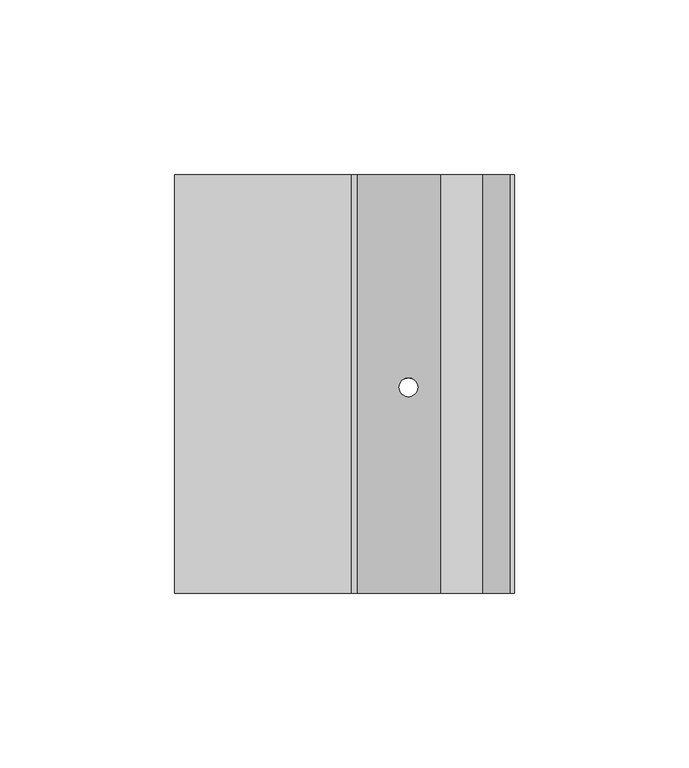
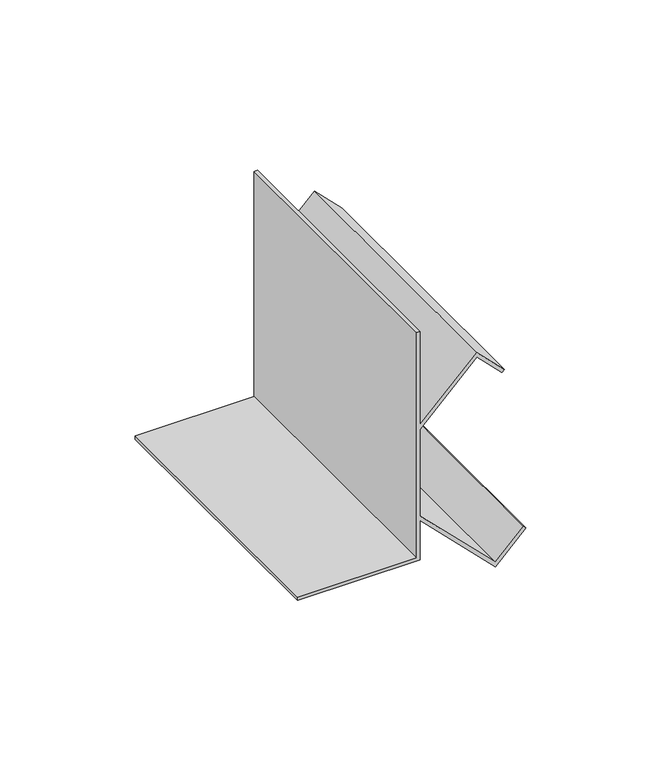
"""IFC4 building model written with IfcOpenShell, lengths in millimetres: proxy geometry, Mechanical Fittings & Accessories5 : Mechanical Fittings & Accessories."""

from ifc_helpers import new_model, si_unit, frame, origin, place, context, project, spatial, polyline, ellipse_curve, source, transform, mapped, element, save
from ifc_brep_helpers import plane_surface, revolved_surface, advanced_brep


def generic_models_6631cd60(model_context):
    return source(origin(), model_context, "Body", "AdvancedBrep", [
        advanced_brep(
        [(-10977.7433312, 7051.4963986, 4114.8), (-11028.5433312, 7051.4963986, 4114.8), (-11028.5433312, 7051.4963986, 4113.3117188), (-10976.25505, 7051.4963986, 4113.3117188), (-10976.25505, 7051.4963986, 4131.1383509), (-10944.145289, 7051.4963986, 4099.0285899), (-10931.1663177, 7051.4963986, 4112.0075612), (-10932.2186914, 7051.4963986, 4113.059935), (-10944.145289, 7051.4963986, 4101.1333374), (-10976.25505, 7051.4963986, 4133.2430984), (-10976.25505, 7051.4963986, 4172.2761118), (-10952.082789, 7051.4963986, 4196.4483729), (-10941.3468164, 7051.4963986, 4185.7124003), (-10940.2944427, 7051.4963986, 4186.7647741), (-10952.082789, 7051.4963986, 4198.5531204), (-10976.25505, 7051.4963986, 4174.3808594), (-10976.25505, 7051.4963986, 4216.4), (-10977.7433312, 7051.4963986, 4216.4), (-10977.7433312, 7171.4645457, 4114.8), (-10977.7433312, 7171.4645457, 4216.4), (-10976.25505, 7171.4645457, 4216.4), (-10976.25505, 7171.4645457, 4174.3808594), (-10952.082789, 7171.4645457, 4198.5531204), (-10940.2944427, 7171.4645457, 4186.7647741), (-10941.3468164, 7171.4645457, 4185.7124003), (-10952.082789, 7171.4645457, 4196.4483729), (-10976.25505, 7171.4645457, 4172.2761118), (-10976.25505, 7171.4645457, 4133.2430984), (-10944.145289, 7171.4645457, 4101.1333374), (-10932.2186914, 7171.4645457, 4113.059935), (-10931.1663177, 7171.4645457, 4112.0075612), (-10944.145289, 7171.4645457, 4099.0285899), (-10976.25505, 7171.4645457, 4131.1383509), (-10976.25505, 7171.4645457, 4113.3117188), (-11028.5433312, 7171.4645457, 4113.3117188), (-11028.5433312, 7171.4645457, 4114.8), (-10964.1411396, 7110.5191481, 4119.0244406), (-10958.8017728, 7110.5191481, 4113.6850737), (-10958.8017728, 7110.5191481, 4115.7898213), (-10964.1411396, 7110.5191481, 4121.1291881), (-10964.1411396, 7110.5191481, 4184.3900222), (-10958.8017728, 7110.5191481, 4189.729389), (-10958.8017728, 7110.5191481, 4191.8341365), (-10964.1411396, 7110.5191481, 4186.4947697)],
        [
            (0, 1),
            (1, 2),
            (2, 3),
            (3, 4),
            (4, 5),
            (5, 6),
            (6, 7),
            (7, 8),
            (8, 9),
            (9, 10),
            (10, 11),
            (11, 12),
            (12, 13),
            (13, 14),
            (14, 15),
            (15, 16),
            (16, 17),
            (17, 0),
            (18, 19),
            (19, 20),
            (20, 21),
            (21, 22),
            (22, 23),
            (23, 24),
            (24, 25),
            (25, 26),
            (26, 27),
            (27, 28),
            (28, 29),
            (29, 30),
            (30, 31),
            (31, 32),
            (32, 33),
            (33, 34),
            (34, 35),
            (35, 18),
            (0, 18),
            (35, 1),
            (34, 2),
            (33, 3),
            (32, 4),
            (31, 5),
            (36, 37, ellipse_curve(frame((-10961.4714562, 7110.5191481, 4116.3547571), z_axis=(0.7071067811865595, 0.0, 0.7071067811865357), x_axis=(-0.7071067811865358, 0.0, 0.7071067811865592)), 3.7755025, 2.6696834)),
            (37, 36, ellipse_curve(frame((-10961.4714562, 7110.5191481, 4116.3547571), z_axis=(0.7071067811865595, 0.0, 0.7071067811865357), x_axis=(-0.7071067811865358, 0.0, 0.7071067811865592)), 3.7755025, 2.6696834)),
            (30, 6),
            (29, 7),
            (28, 8),
            (27, 9),
            (38, 39, ellipse_curve(frame((-10961.4714562, 7110.5191481, 4118.4595047), z_axis=(-0.7071067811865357, 0.0, -0.7071067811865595), x_axis=(-0.7071067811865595, 0.0, 0.7071067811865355)), 3.7755025, 2.6696834)),
            (39, 38, ellipse_curve(frame((-10961.4714562, 7110.5191481, 4118.4595047), z_axis=(-0.7071067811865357, 0.0, -0.7071067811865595), x_axis=(-0.7071067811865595, 0.0, 0.7071067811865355)), 3.7755025, 2.6696834)),
            (26, 10),
            (25, 11),
            (40, 41, ellipse_curve(frame((-10961.4714562, 7110.5191481, 4187.0597056), z_axis=(-0.7071067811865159, 0.0, 0.7071067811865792), x_axis=(0.7071067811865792, 0.0, 0.7071067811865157)), 3.7755025, 2.6696834)),
            (41, 40, ellipse_curve(frame((-10961.4714562, 7110.5191481, 4187.0597056), z_axis=(-0.7071067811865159, 0.0, 0.7071067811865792), x_axis=(0.7071067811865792, 0.0, 0.7071067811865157)), 3.7755025, 2.6696834)),
            (24, 12),
            (23, 13),
            (22, 14),
            (21, 15),
            (42, 43, ellipse_curve(frame((-10961.4714562, 7110.5191481, 4189.1644531), z_axis=(0.7071067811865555, 0.0, -0.7071067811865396), x_axis=(0.7071067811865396, 0.0, 0.7071067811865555)), 3.7755025, 2.6696834)),
            (43, 42, ellipse_curve(frame((-10961.4714562, 7110.5191481, 4189.1644531), z_axis=(0.7071067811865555, 0.0, -0.7071067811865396), x_axis=(0.7071067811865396, 0.0, 0.7071067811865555)), 3.7755025, 2.6696834)),
            (20, 16),
            (19, 17),
            (36, 39),
            (38, 37),
            (40, 43),
            (42, 41),
        ],
        [
            plane_surface(frame((-11028.5433312, 7051.4963986, 4114.8), z_axis=(0.0, -1.0, 0.0), x_axis=(-1.0, 0.0, 0.0))),
            plane_surface(frame((-11028.5433312, 7171.4645457, 4114.8), z_axis=(0.0, 1.0, 0.0), x_axis=(1.0, 0.0, 0.0))),
            plane_surface(frame((-10977.7433312, 7051.4963986, 4114.8), z_axis=(0.0, 0.0, 1.0), x_axis=(0.0, 1.0, 0.0))),
            plane_surface(frame((-11028.5433312, 7051.4963986, 4114.8), z_axis=(-1.0, 0.0, 0.0), x_axis=(0.0, 1.0, 0.0))),
            plane_surface(frame((-11028.5433312, 7051.4963986, 4113.3117188), z_axis=(0.0, 0.0, -1.0), x_axis=(0.0, 1.0, 0.0))),
            plane_surface(frame((-10976.25505, 7051.4963986, 4113.3117188), z_axis=(1.0, 0.0, 0.0), x_axis=(0.0, 1.0, 0.0))),
            plane_surface(frame((-10976.25505, 7051.4963986, 4131.1383509), z_axis=(-0.7071067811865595, 0.0, -0.7071067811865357), x_axis=(0.0, 1.0, 0.0))),
            plane_surface(frame((-10944.145289, 7051.4963986, 4099.0285899), z_axis=(0.7071067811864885, 0.0, -0.7071067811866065), x_axis=(0.0, 1.0, 0.0))),
            plane_surface(frame((-10931.1663177, 7051.4963986, 4112.0075612), z_axis=(0.7071067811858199, 0.0, 0.7071067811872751), x_axis=(0.0, 1.0, 0.0))),
            plane_surface(frame((-10932.2186914, 7051.4963986, 4113.059935), z_axis=(-0.7071067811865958, 0.0, 0.7071067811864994), x_axis=(0.0, 1.0, 0.0))),
            plane_surface(frame((-10944.145289, 7051.4963986, 4101.1333374), z_axis=(0.7071067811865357, 0.0, 0.7071067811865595), x_axis=(0.0, 1.0, 0.0))),
            plane_surface(frame((-10976.25505, 7051.4963986, 4133.2430984), z_axis=(1.0, 0.0, 0.0), x_axis=(0.0, 1.0, 0.0))),
            plane_surface(frame((-10976.25505, 7051.4963986, 4172.2761118), z_axis=(0.7071067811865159, 0.0, -0.7071067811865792), x_axis=(0.0, 1.0, 0.0))),
            plane_surface(frame((-10952.082789, 7051.4963986, 4196.4483729), z_axis=(-0.7071067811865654, 0.0, -0.7071067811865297), x_axis=(0.0, 1.0, 0.0))),
            plane_surface(frame((-10941.3468164, 7051.4963986, 4185.7124003), z_axis=(0.7071067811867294, 0.0, -0.7071067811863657), x_axis=(0.0, 1.0, 0.0))),
            plane_surface(frame((-10940.2944427, 7051.4963986, 4186.7647741), z_axis=(0.707106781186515, 0.0, 0.70710678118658), x_axis=(0.0, 1.0, 0.0))),
            plane_surface(frame((-10952.082789, 7051.4963986, 4198.5531204), z_axis=(-0.7071067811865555, 0.0, 0.7071067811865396), x_axis=(0.0, 1.0, 0.0))),
            plane_surface(frame((-10976.25505, 7051.4963986, 4174.3808594), z_axis=(1.0, 0.0, 0.0), x_axis=(0.0, 1.0, 0.0))),
            plane_surface(frame((-10976.25505, 7051.4963986, 4216.4), z_axis=(0.0, 0.0, 1.0), x_axis=(0.0, 1.0, 0.0))),
            plane_surface(frame((-10977.7433312, 7051.4963986, 4216.4), z_axis=(-1.0, 0.0, 0.0), x_axis=(0.0, 1.0, 0.0))),
            revolved_surface(polyline([(-10958.801772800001, 7110.5191481, 4121.129188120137), (-10958.801772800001, 7110.5191481, 4113.685073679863)]), (-10961.4714562, 7110.5191481, 4097.2034211), (0.0, 0.0, 1.0)),
            revolved_surface(polyline([(-10958.801772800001, 7110.5191481, 4191.834136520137), (-10958.801772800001, 7110.5191481, 4184.390022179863)]), (-10961.4714562, 7110.5191481, 4097.2034211), (0.0, 0.0, 1.0)),
        ],
        [
            (0, [[1, 2, 3, 4, 5, 6, 7, 8, 9, 10, 11, 12, 13, 14, 15, 16, 17, 18]]),
            (1, [[19, 20, 21, 22, 23, 24, 25, 26, 27, 28, 29, 30, 31, 32, 33, 34, 35, 36]]),
            (2, [[-1, 37, -36, 38]]),
            (3, [[-2, -38, -35, 39]]),
            (4, [[-3, -39, -34, 40]]),
            (5, [[-4, -40, -33, 41]]),
            (6, [[-5, -41, -32, 42], [43, 44]]),
            (7, [[-6, -42, -31, 45]]),
            (8, [[-7, -45, -30, 46]]),
            (9, [[-8, -46, -29, 47]]),
            (10, [[-9, -47, -28, 48], [49, 50]]),
            (11, [[-10, -48, -27, 51]]),
            (12, [[-11, -51, -26, 52], [53, 54]]),
            (13, [[-12, -52, -25, 55]]),
            (14, [[-13, -55, -24, 56]]),
            (15, [[-14, -56, -23, 57]]),
            (16, [[-15, -57, -22, 58], [59, 60]]),
            (17, [[-16, -58, -21, 61]]),
            (18, [[-17, -61, -20, 62]]),
            (19, [[-18, -62, -19, -37]]),
            (20, [[63, -49, 64, -43]]),
            (21, [[65, -59, 66, -53]]),
            (20, [[-63, -44, -64, -50]]),
            (21, [[-65, -54, -66, -60]]),
        ],
    ),
    ])


if __name__ == "__main__":
    model = new_model("IFC4")
    model_context = context("Model", 3, world=origin())
    ifc_project = project(units=[si_unit("LENGTHUNIT", "METRE", prefix="MILLI")], contexts=[model_context])
    site = spatial("IfcSite", under=ifc_project)
    building = spatial("IfcBuilding", under=site)
    placement = place(None, origin())
    generic_models_shape = generic_models_6631cd60(model_context)
    element("IfcBuildingElementProxy", 1, Name="Mechanical Fittings & Accessories5 : Mechanical Fittings & Accessories", ObjectType="Mechanical Fittings & Accessories5 : Mechanical Fittings & Accessories", at=placement, inside=building, context=model_context, shape_type="MappedRepresentation", body=[
        mapped(generic_models_shape, transform((0.0, 0.0, 0.0), x_axis=(1.0, 0.0, 0.0), y_axis=(0.0, 1.0, 0.0), z_axis=(0.0, 0.0, 1.0))),
    ])
    save(model, "model.ifc")
